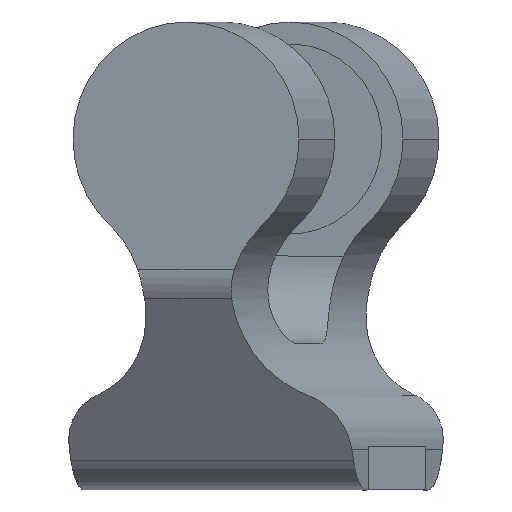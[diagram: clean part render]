
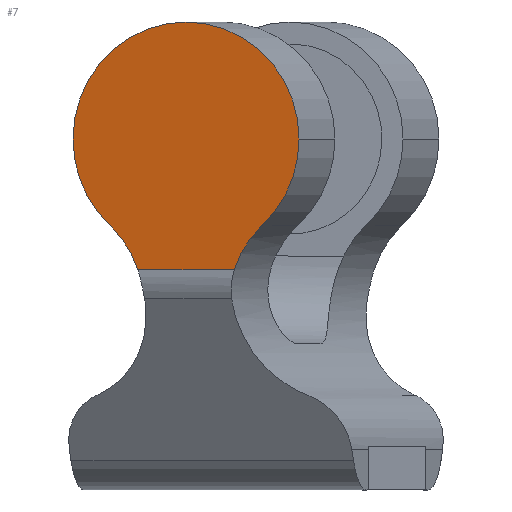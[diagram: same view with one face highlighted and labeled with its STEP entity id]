
A CAD part, front view. The second image highlights one B-rep face of the part: STEP entity #7.
In plain terms, the highlighted planar face has unit normal (-0.259, -0.966, 0).
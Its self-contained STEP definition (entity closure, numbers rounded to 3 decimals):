
#7 = ADVANCED_FACE ( 'NONE', ( #621 ), #1126, .F. ) ;
#12 = ORIENTED_EDGE ( 'NONE', *, *, #939, .F. ) ;
#49 = CARTESIAN_POINT ( 'NONE',  ( 25.769, -18.69, -834.469 ) ) ;
#65 = CIRCLE ( 'NONE', #652, 8. ) ;
#71 = AXIS2_PLACEMENT_3D ( 'NONE', #218, #73, #902 ) ;
#73 = DIRECTION ( 'NONE',  ( -0.259, -0.966, 0. ) ) ;
#87 = CARTESIAN_POINT ( 'NONE',  ( 14.987, -15.804, -825.541 ) ) ;
#103 = CIRCLE ( 'NONE', #307, 8. ) ;
#139 = CARTESIAN_POINT ( 'NONE',  ( 17.537, -16.486, -831.479 ) ) ;
#214 = ORIENTED_EDGE ( 'NONE', *, *, #1070, .T. ) ;
#218 = CARTESIAN_POINT ( 'NONE',  ( 32.375, -20.459, -836.618 ) ) ;
#307 = AXIS2_PLACEMENT_3D ( 'NONE', #362, #1039, #883 ) ;
#343 = CIRCLE ( 'NONE', #1749, 6.923 ) ;
#362 = CARTESIAN_POINT ( 'NONE',  ( 22.715, -17.873, -825.541 ) ) ;
#448 = VERTEX_POINT ( 'NONE', #478 ) ;
#464 = DIRECTION ( 'NONE',  ( 0.259, 0.966, 0. ) ) ;
#478 = CARTESIAN_POINT ( 'NONE',  ( 19.413, -16.988, -834.469 ) ) ;
#479 = VERTEX_POINT ( 'NONE', #139 ) ;
#505 = LINE ( 'NONE', #49, #739 ) ;
#571 = EDGE_CURVE ( 'NONE', #479, #752, #103, .T. ) ;
#621 = FACE_OUTER_BOUND ( 'NONE', #2163, .T. ) ;
#645 = CARTESIAN_POINT ( 'NONE',  ( 13.056, -15.286, -836.618 ) ) ;
#652 = AXIS2_PLACEMENT_3D ( 'NONE', #1146, #464, #1486 ) ;
#719 = DIRECTION ( 'NONE',  ( 0.966, -0.259, 0. ) ) ;
#739 = VECTOR ( 'NONE', #719, 1000. ) ;
#746 = ORIENTED_EDGE ( 'NONE', *, *, #1569, .F. ) ;
#752 = VERTEX_POINT ( 'NONE', #87 ) ;
#852 = CARTESIAN_POINT ( 'NONE',  ( 22.715, -17.873, -825.541 ) ) ;
#863 = DIRECTION ( 'NONE',  ( 0.966, -0.259, 0. ) ) ;
#883 = DIRECTION ( 'NONE',  ( 0.966, -0.259, 0. ) ) ;
#902 = DIRECTION ( 'NONE',  ( -0.966, 0.259, 0. ) ) ;
#939 = EDGE_CURVE ( 'NONE', #1210, #1912, #1822, .T. ) ;
#994 = DIRECTION ( 'NONE',  ( -0.966, 0.259, 0. ) ) ;
#1038 = ORIENTED_EDGE ( 'NONE', *, *, #571, .F. ) ;
#1039 = DIRECTION ( 'NONE',  ( 0.259, 0.966, 0. ) ) ;
#1070 = EDGE_CURVE ( 'NONE', #448, #1912, #505, .T. ) ;
#1112 = DIRECTION ( 'NONE',  ( -0.965, 0.258, 0.033 ) ) ;
#1126 = PLANE ( 'NONE',  #1928 ) ;
#1146 = CARTESIAN_POINT ( 'NONE',  ( 22.715, -17.873, -825.541 ) ) ;
#1195 = CIRCLE ( 'NONE', #1622, 8. ) ;
#1199 = VERTEX_POINT ( 'NONE', #1377 ) ;
#1210 = VERTEX_POINT ( 'NONE', #1388 ) ;
#1377 = CARTESIAN_POINT ( 'NONE',  ( 30.443, -19.942, -825.541 ) ) ;
#1381 = DIRECTION ( 'NONE',  ( 0.259, 0.966, 0. ) ) ;
#1388 = CARTESIAN_POINT ( 'NONE',  ( 27.894, -19.259, -831.479 ) ) ;
#1397 = EDGE_CURVE ( 'NONE', #1199, #1210, #65, .T. ) ;
#1486 = DIRECTION ( 'NONE',  ( 0.966, -0.259, 0. ) ) ;
#1503 = DIRECTION ( 'NONE',  ( -0.259, -0.966, 0. ) ) ;
#1569 = EDGE_CURVE ( 'NONE', #448, #479, #343, .T. ) ;
#1622 = AXIS2_PLACEMENT_3D ( 'NONE', #852, #1381, #863 ) ;
#1745 = ORIENTED_EDGE ( 'NONE', *, *, #2145, .F. ) ;
#1749 = AXIS2_PLACEMENT_3D ( 'NONE', #645, #1503, #994 ) ;
#1757 = CARTESIAN_POINT ( 'NONE',  ( 26.018, -18.757, -834.469 ) ) ;
#1796 = DIRECTION ( 'NONE',  ( 0.259, 0.966, 0. ) ) ;
#1822 = CIRCLE ( 'NONE', #71, 6.923 ) ;
#1840 = ORIENTED_EDGE ( 'NONE', *, *, #1397, .F. ) ;
#1912 = VERTEX_POINT ( 'NONE', #1757 ) ;
#1928 = AXIS2_PLACEMENT_3D ( 'NONE', #1959, #1796, #1112 ) ;
#1959 = CARTESIAN_POINT ( 'NONE',  ( 32.375, -20.459, -836.618 ) ) ;
#2145 = EDGE_CURVE ( 'NONE', #752, #1199, #1195, .T. ) ;
#2163 = EDGE_LOOP ( 'NONE', ( #746, #214, #12, #1840, #1745, #1038 ) ) ;
